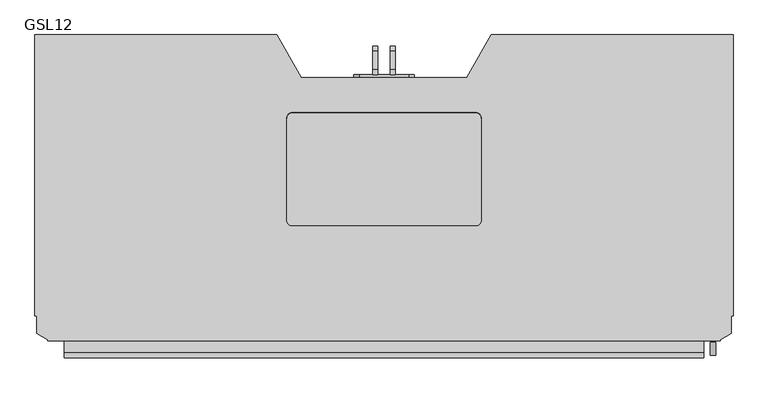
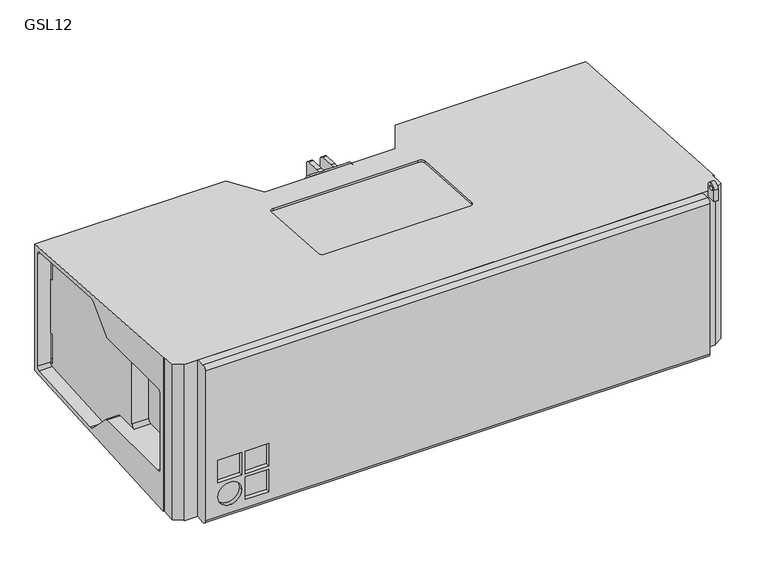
"""IFC4 building model written with IfcOpenShell, lengths in millimetres: proxy geometry, d&b SL-Series GSL : GSL12."""

from ifc_helpers import new_model, si_unit, point, frame, frame_2d, origin, place, context, project, spatial, polyline, circle_curve, trimmed, segment, composite_curve, outline, extrude, source, transform, mapped, element, save
from ifc_brep_helpers import plane_surface, cylinder_surface, revolved_surface, advanced_brep


def gsl12_814769ea(model_context):
    return source(origin(), model_context, "Body", "SolidModel", [
        advanced_brep(
        [(-119.3, -112.3744027, -102.0), (-119.3, -103.3744027, -93.0), (-119.3, -103.3744027, 93.0), (-119.3, -112.3744027, 102.0), (-119.3, -56.0459756, 102.0), (-119.3, -48.9749078, 104.9289322), (-119.3, 4.726121, 158.6299609), (-119.3, 12.4512201, 161.5374823), (-119.3, 221.9292014, 147.80757), (-119.3, 229.0016635, 141.5), (-119.3, 220.1255973, 141.5), (-119.3, 220.1255973, 67.0067283), (-119.3, 229.1255973, 67.0067283), (-119.3, 229.1255973, -67.0067283), (-119.3, 220.1255973, -67.0067283), (-119.3, 220.1255973, -141.5), (-119.3, 229.0016635, -141.5), (-119.3, 221.9292014, -147.80757), (-119.3, 13.3554681, -161.4782148), (-119.3, 4.0853491, -157.9891891), (-119.3, -48.9749078, -104.9289322), (-119.3, -56.0459756, -102.0), (300.0, 240.1255973, 157.6402262), (-150.0, 240.1255973, 157.6402262), (-150.0, -283.8744027, 191.9850007), (-147.0, -283.8744027, 191.9850007), (-147.0, -316.5566714, 194.1271098), (-126.5, -328.3923519, 194.9028613), (-126.5, -330.1244027, 195.0163859), (1126.5, -330.1244027, 195.0163859), (1126.5, -328.3923519, 194.9028613), (1147.0, -316.5566714, 194.1271098), (1147.0, -283.8744027, 191.9850007), (1150.0, -283.8744027, 191.9850007), (1150.0, 240.1255973, 157.6402262), (700.0, 240.1255973, 157.6402262), (653.8119785, 160.1255973, 162.8837032), (346.1880215, 160.1255973, 162.8837032), (681.0, -105.6020072, 180.3004106), (671.0, -115.5805965, 180.9544419), (329.0, -115.5805965, 180.9544419), (319.0, -105.6020072, 180.3004106), (319.0, 84.9890471, 167.8084129), (329.0, 94.9676363, 167.1543816), (671.0, 94.9676363, 167.1543816), (681.0, 84.9890471, 167.8084129), (-150.0, -283.8744027, -191.9850007), (-147.0, -283.8744027, -191.9850007), (1150.0, -283.8744027, -191.9850007), (1147.0, -283.8744027, -191.9850007), (-150.0, 240.1255973, -157.6402262), (300.0, 240.1255973, -157.6402262), (346.1880215, 160.1255973, -162.8837032), (653.8119785, 160.1255973, -162.8837032), (700.0, 240.1255973, -157.6402262), (1150.0, 240.1255973, -157.6402262), (1147.0, -316.5566714, -194.1271098), (1126.5, -328.3923519, -194.9028613), (1126.5, -330.1244027, -195.0163859), (-126.5, -330.1244027, -195.0163859), (-126.5, -328.3923519, -194.9028613), (-147.0, -316.5566714, -194.1271098), (-119.3, 240.1255973, 67.0067283), (-87.3927036, 240.1255973, 11.7416698), (-87.3927036, 240.1255973, -11.7416698), (-119.3, 240.1255973, -67.0067283), (-119.3, 240.1255973, -141.5), (23.5980762, 240.1255973, -141.5), (53.9089653, 240.1255973, -89.0), (206.9859169, 240.1255973, -89.0), (243.6539728, 240.1255973, -25.4890642), (243.6539728, 240.1255973, 25.4890642), (206.9859169, 240.1255973, 89.0), (53.9089653, 240.1255973, 89.0), (23.5980762, 240.1255973, 141.5), (-119.3, 240.1255973, 141.5), (1119.3, 240.1255973, -67.0067283), (1087.3927036, 240.1255973, -11.7416698), (1087.3927036, 240.1255973, 11.7416698), (1119.3, 240.1255973, 67.0067283), (1119.3, 240.1255973, 141.5), (976.4019238, 240.1255973, 141.5), (946.0910347, 240.1255973, 89.0), (793.0140831, 240.1255973, 89.0), (756.3460272, 240.1255973, 25.4890642), (756.3460272, 240.1255973, -25.4890642), (793.0140831, 240.1255973, -89.0), (946.0910347, 240.1255973, -89.0), (976.4019238, 240.1255973, -141.5), (1119.3, 240.1255973, -141.5), (-80.0, -112.3744027, -102.0), (-150.0, -56.0459756, -102.0), (-150.0, -261.8744027, -102.0), (-119.3, -261.8744027, -102.0), (-80.0, -261.8744027, -102.0), (-119.3, -270.8744027, -93.0), (-80.0, -270.8744027, -93.0), (-150.0, -270.8744027, -93.0), (-150.0, -270.8744027, 93.0), (-119.3, -270.8744027, 93.0), (-80.0, -270.8744027, 93.0), (-119.3, -261.8744027, 102.0), (-80.0, -261.8744027, 102.0), (-150.0, -261.8744027, 102.0), (-150.0, -56.0459756, 102.0), (-80.0, -112.3744027, 102.0), (-80.0, -103.3744027, 93.0), (-80.0, -103.3744027, -93.0), (23.5980762, 220.1255973, -141.5), (976.4019238, 220.1255973, -141.5), (1119.3, 220.1255973, -141.5), (1119.3, 229.0016635, -141.5), (-87.3927036, 220.1255973, -11.7416698), (-87.3927036, 220.1255973, 11.7416698), (23.5980762, 220.1255973, 141.5), (53.9089653, 220.1255973, 89.0), (206.9859169, 220.1255973, 89.0), (243.6539728, 220.1255973, 25.4890642), (243.6539728, 220.1255973, -25.4890642), (206.9859169, 220.1255973, -89.0), (53.9089653, 220.1255973, -89.0), (1119.3, 220.1255973, 141.5), (1119.3, 220.1255973, 67.0067283), (1087.3927036, 220.1255973, 11.7416698), (1087.3927036, 220.1255973, -11.7416698), (1119.3, 220.1255973, -67.0067283), (946.0910347, 220.1255973, -89.0), (793.0140831, 220.1255973, -89.0), (756.3460272, 220.1255973, -25.4890642), (756.3460272, 220.1255973, 25.4890642), (793.0140831, 220.1255973, 89.0), (946.0910347, 220.1255973, 89.0), (976.4019238, 220.1255973, 141.5), (1119.3, 229.0016635, 141.5), (-119.3, 229.1255973, 140.1240563), (-119.3, 229.1255973, -140.1240563), (-150.0, 221.9292014, 147.80757), (-150.0, 12.4512201, 161.5374823), (-150.0, 4.726121, 158.6299609), (-150.0, -48.9749078, 104.9289322), (-150.0, -48.9749078, -104.9289322), (-150.0, 4.0853491, -157.9891891), (-150.0, 13.3554681, -161.4782148), (-150.0, 221.9292014, -147.80757), (-150.0, 229.1255973, -140.1240563), (-150.0, 229.1255973, 140.1240563), (1080.0, -261.8744027, -102.0), (1080.0, -112.3744027, -102.0), (1080.0, -103.3744027, -93.0), (1080.0, -103.3744027, 93.0), (1080.0, -112.3744027, 102.0), (1080.0, -261.8744027, 102.0), (1080.0, -270.8744027, 93.0), (1080.0, -270.8744027, -93.0), (1119.3, -261.8744027, -102.0), (1150.0, -261.8744027, -102.0), (1150.0, -56.0459756, -102.0), (1119.3, -56.0459756, -102.0), (1119.3, -112.3744027, -102.0), (1119.3, -270.8744027, -93.0), (1119.3, -270.8744027, 93.0), (1150.0, -270.8744027, 93.0), (1150.0, -270.8744027, -93.0), (1119.3, -261.8744027, 102.0), (1119.3, -112.3744027, 102.0), (1119.3, -56.0459756, 102.0), (1150.0, -56.0459756, 102.0), (1150.0, -261.8744027, 102.0), (1119.3, -103.3744027, 93.0), (1119.3, -103.3744027, -93.0), (626.0, 160.1255973, -96.0), (636.0, 160.1255973, -86.0), (636.0, 160.1255973, 86.0), (626.0, 160.1255973, 96.0), (574.0, 160.1255973, 96.0), (564.0, 160.1255973, 86.0), (564.0, 160.1255973, -86.0), (574.0, 160.1255973, -96.0), (1119.3, 229.1255973, 67.0067283), (1119.3, 229.1255973, 140.1240563), (1119.3, 229.1255973, -140.1240563), (1119.3, 229.1255973, -67.0067283), (1150.0, 221.9292014, 147.80757), (1150.0, 229.1255973, 140.1240563), (1150.0, 229.1255973, -140.1240563), (1150.0, 221.9292014, -147.80757), (1150.0, 13.3554681, -161.4782148), (1150.0, 4.0853491, -157.9891891), (1150.0, -48.9749078, -104.9289322), (1150.0, -48.9749078, 104.9289322), (1150.0, 4.726121, 158.6299609), (1150.0, 12.4512201, 161.5374823), (1119.3, 221.9292014, 147.80757), (1119.3, 221.9292014, -147.80757), (1119.3, 13.3554681, -161.4782148), (1119.3, 4.0853491, -157.9891891), (1119.3, -48.9749078, -104.9289322), (1119.3, -48.9749078, 104.9289322), (1119.3, 4.726121, 158.6299609), (1119.3, 12.4512201, 161.5374823), (671.0, -115.9076121, 175.9651473), (681.0, -105.9290229, 175.311116), (681.0, 84.6620315, 162.8191183), (671.0, 94.6406207, 162.165087), (329.0, 94.6406207, 162.165087), (319.0, 84.6620315, 162.8191183), (319.0, -105.9290229, 175.311116), (329.0, -115.9076121, 175.9651473), (636.0, 155.1255973, -86.0), (626.0, 155.1255973, -96.0), (574.0, 155.1255973, -96.0), (564.0, 155.1255973, -86.0), (564.0, 155.1255973, 86.0), (574.0, 155.1255973, 96.0), (626.0, 155.1255973, 96.0), (636.0, 155.1255973, 86.0)],
        [
            (0, 1, circle_curve(frame((-119.3, -112.3744027, -93.0), z_axis=(1.0, 0.0, 0.0), x_axis=(0.0, 1.0, 0.0)), 9.0)),
            (1, 2),
            (2, 3, circle_curve(frame((-119.3, -112.3744027, 93.0), z_axis=(1.0, 0.0, 0.0), x_axis=(0.0, 1.0, 0.0)), 9.0)),
            (3, 4),
            (4, 5, circle_curve(frame((-119.3, -56.0459756, 112.0), z_axis=(1.0, 0.0, 0.0), x_axis=(0.0, -1.0, 0.0)), 10.0)),
            (5, 6),
            (6, 7, circle_curve(frame((-119.3, 11.7971888, 151.5588931), z_axis=(-1.0, 0.0, 0.0), x_axis=(0.0, -1.0, 0.0)), 10.0)),
            (7, 8),
            (8, 9, circle_curve(frame((-119.3, 221.4255973, 140.1240563), z_axis=(-1.0, 0.0, 0.0), x_axis=(0.0, 1.0, 0.0)), 7.7)),
            (9, 10),
            (10, 11),
            (11, 12),
            (12, 13),
            (13, 14),
            (14, 15),
            (15, 16),
            (16, 17, circle_curve(frame((-119.3, 221.4255973, -140.1240563), z_axis=(-1.0, 0.0, 0.0), x_axis=(0.0, 1.0, 0.0)), 7.7)),
            (17, 18),
            (18, 19, circle_curve(frame((-119.3, 12.5706305, -149.5039077), z_axis=(-1.0, 0.0, 0.0), x_axis=(0.0, -1.0, 0.0)), 12.0)),
            (19, 20),
            (20, 21, circle_curve(frame((-119.3, -56.0459756, -112.0), z_axis=(1.0, 0.0, 0.0), x_axis=(0.0, -1.0, 0.0)), 10.0)),
            (21, 0),
            (22, 23),
            (23, 24),
            (24, 25),
            (25, 26),
            (26, 27),
            (27, 28),
            (28, 29),
            (29, 30),
            (30, 31),
            (31, 32),
            (32, 33),
            (33, 34),
            (34, 35),
            (35, 36),
            (36, 37),
            (37, 22),
            (38, 39, circle_curve(frame((671.0, -105.6020072, 180.3004106), z_axis=(0.0, -0.06540312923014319, -0.9978589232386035), x_axis=(0.0, 0.9978589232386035, -0.06540312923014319)), 10.0)),
            (39, 40),
            (40, 41, circle_curve(frame((329.0, -105.6020072, 180.3004106), z_axis=(0.0, -0.06540312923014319, -0.9978589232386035), x_axis=(0.0, 0.9978589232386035, -0.06540312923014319)), 10.0)),
            (41, 42),
            (42, 43, circle_curve(frame((329.0, 84.9890471, 167.8084129), z_axis=(0.0, -0.06540312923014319, -0.9978589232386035), x_axis=(0.0, 0.9978589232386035, -0.06540312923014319)), 10.0)),
            (43, 44),
            (44, 45, circle_curve(frame((671.0, 84.9890471, 167.8084129), z_axis=(0.0, -0.06540312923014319, -0.9978589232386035), x_axis=(0.0, 0.9978589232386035, -0.06540312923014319)), 10.0)),
            (45, 38),
            (24, 46),
            (46, 47),
            (47, 25),
            (48, 33),
            (32, 49),
            (49, 48),
            (50, 51),
            (51, 52),
            (52, 53),
            (53, 54),
            (54, 55),
            (55, 48),
            (49, 56),
            (56, 57),
            (57, 58),
            (58, 59),
            (59, 60),
            (60, 61),
            (61, 47),
            (46, 50),
            (50, 23),
            (22, 51),
            (62, 63),
            (63, 64),
            (64, 65),
            (65, 66),
            (66, 67),
            (67, 68),
            (68, 69),
            (69, 70),
            (70, 71),
            (71, 72),
            (72, 73),
            (73, 74),
            (74, 75),
            (75, 62),
            (54, 35),
            (34, 55),
            (76, 77),
            (77, 78),
            (78, 79),
            (79, 80),
            (80, 81),
            (81, 82),
            (82, 83),
            (83, 84),
            (84, 85),
            (85, 86),
            (86, 87),
            (87, 88),
            (88, 89),
            (89, 76),
            (90, 0),
            (21, 91),
            (91, 92),
            (92, 93),
            (93, 94),
            (94, 90),
            (93, 95, circle_curve(frame((-119.3, -261.8744027, -93.0), z_axis=(-1.0, 0.0, 0.0), x_axis=(0.0, -1.0, 0.0)), 9.0)),
            (95, 96),
            (96, 94, circle_curve(frame((-80.0, -261.8744027, -93.0), z_axis=(1.0, 0.0, 0.0), x_axis=(0.0, -1.0, 0.0)), 9.0)),
            (95, 97),
            (97, 98),
            (98, 99),
            (99, 100),
            (100, 96),
            (99, 101, circle_curve(frame((-119.3, -261.8744027, 93.0), z_axis=(-1.0, 0.0, 0.0), x_axis=(0.0, -1.0, 0.0)), 9.0)),
            (101, 102),
            (102, 100, circle_curve(frame((-80.0, -261.8744027, 93.0), z_axis=(1.0, 0.0, 0.0), x_axis=(0.0, -1.0, 0.0)), 9.0)),
            (101, 103),
            (103, 104),
            (104, 4),
            (3, 105),
            (105, 102),
            (2, 106),
            (106, 105, circle_curve(frame((-80.0, -112.3744027, 93.0), z_axis=(1.0, 0.0, 0.0), x_axis=(0.0, 1.0, 0.0)), 9.0)),
            (1, 107),
            (107, 106),
            (90, 107, circle_curve(frame((-80.0, -112.3744027, -93.0), z_axis=(1.0, 0.0, 0.0), x_axis=(0.0, 1.0, 0.0)), 9.0)),
            (15, 108),
            (108, 67),
            (66, 16),
            (88, 109),
            (109, 110),
            (110, 111),
            (111, 89),
            (14, 112),
            (112, 113),
            (113, 11),
            (10, 114),
            (114, 115),
            (115, 116),
            (116, 117),
            (117, 118),
            (118, 119),
            (119, 120),
            (120, 108),
            (121, 122),
            (122, 123),
            (123, 124),
            (124, 125),
            (125, 110),
            (109, 126),
            (126, 127),
            (127, 128),
            (128, 129),
            (129, 130),
            (130, 131),
            (131, 132),
            (132, 121),
            (9, 75),
            (74, 114),
            (132, 81),
            (80, 133),
            (133, 121),
            (9, 134, circle_curve(frame((-119.3, 221.4255973, 140.1240563), z_axis=(-1.0, 0.0, 0.0), x_axis=(0.0, 1.0, 0.0)), 7.7)),
            (134, 12),
            (12, 62),
            (135, 16, circle_curve(frame((-119.3, 221.4255973, -140.1240563), z_axis=(-1.0, 0.0, 0.0), x_axis=(0.0, 1.0, 0.0)), 7.7)),
            (65, 13),
            (13, 135),
            (136, 137),
            (137, 138, circle_curve(frame((-150.0, 11.7971888, 151.5588931), z_axis=(1.0, 0.0, 0.0), x_axis=(0.0, -1.0, 0.0)), 10.0)),
            (138, 139),
            (139, 104, circle_curve(frame((-150.0, -56.0459756, 112.0), z_axis=(-1.0, 0.0, 0.0), x_axis=(0.0, -1.0, 0.0)), 10.0)),
            (103, 98, circle_curve(frame((-150.0, -261.8744027, 93.0), z_axis=(1.0, 0.0, 0.0), x_axis=(0.0, -1.0, 0.0)), 9.0)),
            (97, 92, circle_curve(frame((-150.0, -261.8744027, -93.0), z_axis=(1.0, 0.0, 0.0), x_axis=(0.0, -1.0, 0.0)), 9.0)),
            (91, 140, circle_curve(frame((-150.0, -56.0459756, -112.0), z_axis=(-1.0, 0.0, 0.0), x_axis=(0.0, -1.0, 0.0)), 10.0)),
            (140, 141),
            (141, 142, circle_curve(frame((-150.0, 12.5706305, -149.5039077), z_axis=(1.0, 0.0, 0.0), x_axis=(0.0, -1.0, 0.0)), 12.0)),
            (142, 143),
            (143, 144, circle_curve(frame((-150.0, 221.4255973, -140.1240563), z_axis=(1.0, 0.0, 0.0), x_axis=(0.0, 1.0, 0.0)), 7.7)),
            (144, 145),
            (145, 136, circle_curve(frame((-150.0, 221.4255973, 140.1240563), z_axis=(1.0, 0.0, 0.0), x_axis=(0.0, 1.0, 0.0)), 7.7)),
            (145, 134),
            (8, 136),
            (144, 135),
            (143, 17),
            (142, 18),
            (141, 19),
            (140, 20),
            (139, 5),
            (138, 6),
            (137, 7),
            (64, 112),
            (63, 113),
            (146, 147),
            (147, 148, circle_curve(frame((1080.0, -112.3744027, -93.0), z_axis=(1.0, 0.0, 0.0), x_axis=(0.0, 1.0, 0.0)), 9.0)),
            (148, 149),
            (149, 150, circle_curve(frame((1080.0, -112.3744027, 93.0), z_axis=(1.0, 0.0, 0.0), x_axis=(0.0, 1.0, 0.0)), 9.0)),
            (150, 151),
            (151, 152, circle_curve(frame((1080.0, -261.8744027, 93.0), z_axis=(1.0, 0.0, 0.0), x_axis=(0.0, -1.0, 0.0)), 9.0)),
            (152, 153),
            (153, 146, circle_curve(frame((1080.0, -261.8744027, -93.0), z_axis=(1.0, 0.0, 0.0), x_axis=(0.0, -1.0, 0.0)), 9.0)),
            (146, 154),
            (154, 155),
            (155, 156),
            (156, 157),
            (157, 158),
            (158, 147),
            (153, 159),
            (159, 154, circle_curve(frame((1119.3, -261.8744027, -93.0), z_axis=(1.0, 0.0, 0.0), x_axis=(0.0, -1.0, 0.0)), 9.0)),
            (152, 160),
            (160, 161),
            (161, 162),
            (162, 159),
            (151, 163),
            (163, 160, circle_curve(frame((1119.3, -261.8744027, 93.0), z_axis=(1.0, 0.0, 0.0), x_axis=(0.0, -1.0, 0.0)), 9.0)),
            (150, 164),
            (164, 165),
            (165, 166),
            (166, 167),
            (167, 163),
            (168, 164, circle_curve(frame((1119.3, -112.3744027, 93.0), z_axis=(1.0, 0.0, 0.0), x_axis=(0.0, 1.0, 0.0)), 9.0)),
            (149, 168),
            (169, 168),
            (148, 169),
            (158, 169, circle_curve(frame((1119.3, -112.3744027, -93.0), z_axis=(1.0, 0.0, 0.0), x_axis=(0.0, 1.0, 0.0)), 9.0)),
            (37, 52),
            (36, 53),
            (170, 171, circle_curve(frame((626.0, 160.1255973, -86.0), z_axis=(0.0, -1.0, 0.0), x_axis=(-1.0, 0.0, 0.0)), 10.0)),
            (171, 172),
            (172, 173, circle_curve(frame((626.0, 160.1255973, 86.0), z_axis=(0.0, -1.0, 0.0), x_axis=(-1.0, 0.0, 0.0)), 10.0)),
            (173, 174),
            (174, 175, circle_curve(frame((574.0, 160.1255973, 86.0), z_axis=(0.0, -1.0, 0.0), x_axis=(-1.0, 0.0, 0.0)), 10.0)),
            (175, 176),
            (176, 177, circle_curve(frame((574.0, 160.1255973, -86.0), z_axis=(0.0, -1.0, 0.0), x_axis=(-1.0, 0.0, 0.0)), 10.0)),
            (177, 170),
            (71, 117),
            (116, 72),
            (70, 118),
            (69, 119),
            (68, 120),
            (73, 115),
            (82, 131),
            (130, 83),
            (87, 126),
            (86, 127),
            (85, 128),
            (84, 129),
            (79, 178),
            (178, 179),
            (179, 133, circle_curve(frame((1119.3, 221.4255973, 140.1240563), z_axis=(1.0, 0.0, 0.0), x_axis=(0.0, 1.0, 0.0)), 7.7)),
            (111, 180, circle_curve(frame((1119.3, 221.4255973, -140.1240563), z_axis=(1.0, 0.0, 0.0), x_axis=(0.0, 1.0, 0.0)), 7.7)),
            (180, 181),
            (181, 76),
            (182, 183, circle_curve(frame((1150.0, 221.4255973, 140.1240563), z_axis=(-1.0, 0.0, 0.0), x_axis=(0.0, 1.0, 0.0)), 7.7)),
            (183, 184),
            (184, 185, circle_curve(frame((1150.0, 221.4255973, -140.1240563), z_axis=(-1.0, 0.0, 0.0), x_axis=(0.0, 1.0, 0.0)), 7.7)),
            (185, 186),
            (186, 187, circle_curve(frame((1150.0, 12.5706305, -149.5039077), z_axis=(-1.0, 0.0, 0.0), x_axis=(0.0, -1.0, 0.0)), 12.0)),
            (187, 188),
            (188, 156, circle_curve(frame((1150.0, -56.0459756, -112.0), z_axis=(1.0, 0.0, 0.0), x_axis=(0.0, -1.0, 0.0)), 10.0)),
            (155, 162, circle_curve(frame((1150.0, -261.8744027, -93.0), z_axis=(-1.0, 0.0, 0.0), x_axis=(0.0, -1.0, 0.0)), 9.0)),
            (161, 167, circle_curve(frame((1150.0, -261.8744027, 93.0), z_axis=(-1.0, 0.0, 0.0), x_axis=(0.0, -1.0, 0.0)), 9.0)),
            (166, 189, circle_curve(frame((1150.0, -56.0459756, 112.0), z_axis=(1.0, 0.0, 0.0), x_axis=(0.0, -1.0, 0.0)), 10.0)),
            (189, 190),
            (190, 191, circle_curve(frame((1150.0, 11.7971888, 151.5588931), z_axis=(-1.0, 0.0, 0.0), x_axis=(0.0, -1.0, 0.0)), 10.0)),
            (191, 182),
            (182, 192),
            (192, 133, circle_curve(frame((1119.3, 221.4255973, 140.1240563), z_axis=(-1.0, 0.0, 0.0), x_axis=(0.0, 1.0, 0.0)), 7.7)),
            (179, 183),
            (178, 181),
            (180, 184),
            (111, 193, circle_curve(frame((1119.3, 221.4255973, -140.1240563), z_axis=(-1.0, 0.0, 0.0), x_axis=(0.0, 1.0, 0.0)), 7.7)),
            (193, 185),
            (193, 194),
            (194, 186),
            (194, 195, circle_curve(frame((1119.3, 12.5706305, -149.5039077), z_axis=(-1.0, 0.0, 0.0), x_axis=(0.0, -1.0, 0.0)), 12.0)),
            (195, 187),
            (195, 196),
            (196, 188),
            (196, 157, circle_curve(frame((1119.3, -56.0459756, -112.0), z_axis=(1.0, 0.0, 0.0), x_axis=(0.0, -1.0, 0.0)), 10.0)),
            (165, 197, circle_curve(frame((1119.3, -56.0459756, 112.0), z_axis=(1.0, 0.0, 0.0), x_axis=(0.0, -1.0, 0.0)), 10.0)),
            (197, 189),
            (197, 198),
            (198, 190),
            (198, 199, circle_curve(frame((1119.3, 11.7971888, 151.5588931), z_axis=(-1.0, 0.0, 0.0), x_axis=(0.0, -1.0, 0.0)), 10.0)),
            (199, 191),
            (199, 192),
            (78, 123),
            (122, 178),
            (77, 124),
            (181, 125),
            (200, 201, circle_curve(frame((671.0, -105.9290229, 175.311116), z_axis=(0.0, 0.06540312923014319, 0.9978589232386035), x_axis=(0.0, 0.9978589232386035, -0.06540312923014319)), 10.0)),
            (201, 202),
            (202, 203, circle_curve(frame((671.0, 84.6620315, 162.8191183), z_axis=(0.0, 0.06540312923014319, 0.9978589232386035), x_axis=(0.0, 0.9978589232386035, -0.06540312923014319)), 10.0)),
            (203, 204),
            (204, 205, circle_curve(frame((329.0, 84.6620315, 162.8191183), z_axis=(0.0, 0.06540312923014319, 0.9978589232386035), x_axis=(0.0, 0.9978589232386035, -0.06540312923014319)), 10.0)),
            (205, 206),
            (206, 207, circle_curve(frame((329.0, -105.9290229, 175.311116), z_axis=(0.0, 0.06540312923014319, 0.9978589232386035), x_axis=(0.0, 0.9978589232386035, -0.06540312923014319)), 10.0)),
            (207, 200),
            (200, 39),
            (38, 201),
            (45, 202),
            (44, 203),
            (43, 204),
            (42, 205),
            (41, 206),
            (40, 207),
            (208, 209, circle_curve(frame((626.0, 155.1255973, -86.0), z_axis=(0.0, 1.0, 0.0), x_axis=(-1.0, 0.0, 0.0)), 10.0)),
            (209, 210),
            (210, 211, circle_curve(frame((574.0, 155.1255973, -86.0), z_axis=(0.0, 1.0, 0.0), x_axis=(-1.0, 0.0, 0.0)), 10.0)),
            (211, 212),
            (212, 213, circle_curve(frame((574.0, 155.1255973, 86.0), z_axis=(0.0, 1.0, 0.0), x_axis=(-1.0, 0.0, 0.0)), 10.0)),
            (213, 214),
            (214, 215, circle_curve(frame((626.0, 155.1255973, 86.0), z_axis=(0.0, 1.0, 0.0), x_axis=(-1.0, 0.0, 0.0)), 10.0)),
            (215, 208),
            (208, 171),
            (170, 209),
            (177, 210),
            (176, 211),
            (175, 212),
            (174, 213),
            (173, 214),
            (172, 215),
            (26, 61),
            (60, 27),
            (59, 28),
            (58, 29),
            (57, 30),
            (56, 31),
        ],
        [
            plane_surface(frame((-119.3, -352.0357745, 196.4525331), z_axis=(-1.0000000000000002, 0.0, 0.0), x_axis=(0.0, 0.9978589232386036, -0.06540312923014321))),
            plane_surface(frame((-80.0, 240.1255973, 157.6402262), z_axis=(0.0, 0.06540312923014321, 0.9978589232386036), x_axis=(-1.0, 0.0, 0.0))),
            plane_surface(frame((-80.0, -283.8744027, 191.9850007), z_axis=(0.0, -1.0, 0.0), x_axis=(-1.0, 0.0, 0.0))),
            plane_surface(frame((-80.0, -283.8744027, -191.9850007), z_axis=(0.0, 0.06540312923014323, -0.9978589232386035), x_axis=(-1.0, 0.0, 0.0))),
            plane_surface(frame((-80.0, 240.1255973, -157.6402262), z_axis=(0.0, 1.0, 0.0), x_axis=(-1.0, 0.0, 0.0))),
            plane_surface(frame((-80.0, -112.3744027, -102.0), z_axis=(0.0, 0.0, 1.0), x_axis=(-1.0, 0.0, 0.0))),
            revolved_surface(polyline([(-119.29999999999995, -270.8744027, -93.0), (-80.0, -270.8744027, -93.0)]), (530.7, -261.8744027, -93.0), (-1.0, 0.0, 0.0)),
            plane_surface(frame((-80.0, -270.8744027, -93.0), z_axis=(0.0, 1.0, 0.0), x_axis=(-1.0, 0.0, 0.0))),
            revolved_surface(polyline([(-119.29999999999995, -270.8744027, 93.0), (-80.0, -270.8744027, 93.0)]), (530.7, -261.8744027, 93.0), (-1.0, 0.0, 0.0)),
            plane_surface(frame((-80.0, -261.8744027, 102.0), z_axis=(0.0, 0.0, -1.0), x_axis=(-1.0, 0.0, 0.0))),
            revolved_surface(polyline([(-119.29999999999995, -103.3744027, 93.0), (-80.0, -103.3744027, 93.0)]), (530.7, -112.3744027, 93.0), (-1.0, 0.0, 0.0)),
            plane_surface(frame((-80.0, -103.3744027, 93.0), z_axis=(0.0, -1.0, 0.0), x_axis=(-1.0, 0.0, 0.0))),
            revolved_surface(polyline([(-119.29999999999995, -103.3744027, -93.0), (-80.0, -103.3744027, -93.0)]), (530.7, -112.3744027, -93.0), (-1.0, 0.0, 0.0)),
            plane_surface(frame((-80.0, 240.1255973, -141.5), z_axis=(0.0, 0.0, 1.0), x_axis=(-1.0, 0.0, 0.0))),
            plane_surface(frame((-80.0, 220.1255973, -141.5), z_axis=(0.0, 1.0, 0.0), x_axis=(-1.0, 0.0, 0.0))),
            plane_surface(frame((-80.0, 220.1255973, 141.5), z_axis=(0.0, 0.0, -1.0), x_axis=(-1.0, 0.0, 0.0))),
            plane_surface(frame((-119.3, -352.0357745, 196.4525331), z_axis=(1.0, 0.0, 0.0), x_axis=(0.0, -0.9978589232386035, 0.0654031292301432))),
            plane_surface(frame((-150.0, -352.0357745, 196.4525331), z_axis=(-1.0, 0.0, 0.0), x_axis=(0.0, 0.9978589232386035, -0.0654031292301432))),
            revolved_surface(polyline([(-150.0, 229.12559729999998, 140.1240563), (-119.29999999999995, 229.12559729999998, 140.1240563)]), (500.0, 221.4255973, 140.1240563), (-1.0, 0.0, 0.0)),
            plane_surface(frame((-119.3, 229.1255973, 140.1240563), z_axis=(0.0, -1.0, 0.0), x_axis=(-1.0, 0.0, 0.0))),
            revolved_surface(polyline([(-150.0, 229.12559729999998, -140.1240563), (-119.29999999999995, 229.12559729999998, -140.1240563)]), (500.0, 221.4255973, -140.1240563), (-1.0, 0.0, 0.0)),
            plane_surface(frame((-119.3, 221.9292014, -147.80757), z_axis=(0.0, -0.06540312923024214, 0.997858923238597), x_axis=(-1.0, 0.0, 0.0))),
            revolved_surface(polyline([(-150.0, 0.5706305, -149.5039077), (-119.29999999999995, 0.5706305, -149.5039077)]), (500.0, 12.5706305, -149.5039077), (-1.0, 0.0, 0.0)),
            plane_surface(frame((-119.3, 4.0853491, -157.9891891), z_axis=(0.0, 0.7071067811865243, 0.7071067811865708), x_axis=(-1.0, 0.0, 0.0))),
            cylinder_surface(frame((500.0, -56.0459756, -112.0), z_axis=(1.0, 0.0, 0.0), x_axis=(0.0, -1.0, 0.0)), 10.0),
            revolved_surface(polyline([(-150.0, -270.8744027, -93.0), (-119.29999999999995, -270.8744027, -93.0)]), (500.0, -261.8744027, -93.0), (-1.0, 0.0, 0.0)),
            revolved_surface(polyline([(-150.0, -270.8744027, 93.0), (-119.29999999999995, -270.8744027, 93.0)]), (500.0, -261.8744027, 93.0), (-1.0, 0.0, 0.0)),
            cylinder_surface(frame((500.0, -56.0459756, 112.0), z_axis=(1.0, 0.0, 0.0), x_axis=(0.0, -1.0, 0.0)), 10.0),
            plane_surface(frame((-119.3, -48.9749078, 104.9289322), z_axis=(0.0, 0.7071067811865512, -0.7071067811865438), x_axis=(-1.0, 0.0, 0.0))),
            revolved_surface(polyline([(-150.0, 1.7971888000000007, 151.5588931), (-119.29999999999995, 1.7971888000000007, 151.5588931)]), (500.0, 11.7971888, 151.5588931), (-1.0, 0.0, 0.0)),
            plane_surface(frame((-119.3, 12.4512201, 161.5374823), z_axis=(0.0, -0.06540312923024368, -0.9978589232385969), x_axis=(-1.0, 0.0, 0.0))),
            plane_surface(frame((-119.3, 219.1255973, -67.0067283), z_axis=(0.8660254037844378, 0.0, -0.5000000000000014), x_axis=(0.0, 1.0, 0.0))),
            plane_surface(frame((-87.3927036, 219.1255973, -11.7416698), z_axis=(1.0, 0.0, 0.0), x_axis=(0.0, 1.0, 0.0))),
            plane_surface(frame((-87.3927036, 219.1255973, 11.7416698), z_axis=(0.8660254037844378, 0.0, 0.5000000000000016), x_axis=(0.0, 1.0, 0.0))),
            plane_surface(frame((1080.0, -283.8744027, 191.9850007), z_axis=(1.0, 0.0, 0.0), x_axis=(0.0, 0.0, -1.0))),
            plane_surface(frame((-80.0, -283.8744027, 191.9850007), z_axis=(-1.0, 0.0, 0.0), x_axis=(0.0, 0.0, 1.0))),
            plane_surface(frame((1080.0, -261.8744027, -102.0), z_axis=(0.0, 0.0, 1.0), x_axis=(1.0, 0.0, 0.0))),
            revolved_surface(polyline([(1119.3, -270.8744027, -93.0), (1080.0, -270.8744027, -93.0)]), (469.3, -261.8744027, -93.0), (1.0, 0.0, 0.0)),
            plane_surface(frame((1080.0, -270.8744027, 93.0), z_axis=(0.0, 1.0, 0.0), x_axis=(1.0, 0.0, 0.0))),
            revolved_surface(polyline([(1119.3, -270.8744027, 93.0), (1080.0, -270.8744027, 93.0)]), (469.3, -261.8744027, 93.0), (1.0, 0.0, 0.0)),
            plane_surface(frame((1080.0, -112.3744027, 102.0), z_axis=(0.0, 0.0, -1.0), x_axis=(1.0, 0.0, 0.0))),
            revolved_surface(polyline([(1119.3, -103.3744027, 93.0), (1080.0, -103.3744027, 93.0)]), (469.3, -112.3744027, 93.0), (1.0, 0.0, 0.0)),
            plane_surface(frame((1080.0, -103.3744027, -93.0), z_axis=(0.0, -1.0, 0.0), x_axis=(1.0, 0.0, 0.0))),
            revolved_surface(polyline([(1119.3, -103.3744027, -93.0), (1080.0, -103.3744027, -93.0)]), (469.3, -112.3744027, -93.0), (1.0, 0.0, 0.0)),
            plane_surface(frame((286.1435935, 264.1255973, 250.0), z_axis=(0.8660254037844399, 0.49999999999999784, 0.0), x_axis=(0.0, 0.0, -1.0))),
            plane_surface(frame((346.1880215, 160.1255973, 250.0), z_axis=(0.0, 1.0, 0.0), x_axis=(0.0, 0.0, -1.0))),
            plane_surface(frame((653.8119785, 160.1255973, 250.0), z_axis=(-0.8660254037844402, 0.4999999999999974, 0.0), x_axis=(0.0, 0.0, -1.0))),
            plane_surface(frame((206.9859169, 220.1255973, 89.0), z_axis=(-0.8660254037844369, 0.0, -0.5000000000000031), x_axis=(0.0, 1.0, 0.0))),
            plane_surface(frame((243.6539728, 220.1255973, 25.4890642), z_axis=(-1.0, 0.0, 0.0), x_axis=(0.0, 1.0, 0.0))),
            plane_surface(frame((243.6539728, 220.1255973, -25.4890642), z_axis=(-0.8660254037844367, 0.0, 0.5000000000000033), x_axis=(0.0, 1.0, 0.0))),
            plane_surface(frame((206.9859169, 220.1255973, -89.0), z_axis=(0.0, 0.0, 1.0), x_axis=(0.0, 1.0, 0.0))),
            plane_surface(frame((53.9089653, 220.1255973, -89.0), z_axis=(-0.8660254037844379, 0.0, 0.5000000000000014), x_axis=(0.0, 1.0, 0.0))),
            plane_surface(frame((23.5980762, 220.1255973, 141.5), z_axis=(-0.8660254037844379, 0.0, -0.5000000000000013), x_axis=(0.0, 1.0, 0.0))),
            plane_surface(frame((53.9089653, 220.1255973, 89.0), z_axis=(0.0, 0.0, -1.0), x_axis=(0.0, 1.0, 0.0))),
            plane_surface(frame((793.0140831, 220.1255973, 89.0), z_axis=(0.0, 0.0, -1.0), x_axis=(0.0, 1.0, 0.0))),
            plane_surface(frame((946.0910347, 220.1255973, 89.0), z_axis=(0.8660254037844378, 0.0, -0.5000000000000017), x_axis=(0.0, 1.0, 0.0))),
            plane_surface(frame((976.4019238, 220.1255973, -141.5), z_axis=(0.8660254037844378, 0.0, 0.5000000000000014), x_axis=(0.0, 1.0, 0.0))),
            plane_surface(frame((946.0910347, 220.1255973, -89.0), z_axis=(0.0, 0.0, 1.0), x_axis=(0.0, 1.0, 0.0))),
            plane_surface(frame((793.0140831, 220.1255973, -89.0), z_axis=(0.8660254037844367, 0.0, 0.5000000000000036), x_axis=(0.0, 1.0, 0.0))),
            plane_surface(frame((756.3460272, 220.1255973, -25.4890642), z_axis=(1.0, 0.0, 0.0), x_axis=(0.0, 1.0, 0.0))),
            plane_surface(frame((756.3460272, 220.1255973, 25.4890642), z_axis=(0.8660254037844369, 0.0, -0.5000000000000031), x_axis=(0.0, 1.0, 0.0))),
            plane_surface(frame((1119.3, 240.1255973, -161.4782148), z_axis=(-1.0, 0.0, 0.0), x_axis=(0.0, 0.0, -1.0))),
            plane_surface(frame((1150.0, 240.1255973, -161.4782148), z_axis=(1.0, 0.0, 0.0), x_axis=(0.0, 0.0, 1.0))),
            revolved_surface(polyline([(1150.0, 229.12559729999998, 140.1240563), (1119.3, 229.12559729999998, 140.1240563)]), (500.0, 221.4255973, 140.1240563), (1.0, 0.0, 0.0)),
            plane_surface(frame((1119.3, 229.1255973, -140.1240563), z_axis=(0.0, -1.0, 0.0), x_axis=(1.0, 0.0, 0.0))),
            revolved_surface(polyline([(1150.0, 229.12559729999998, -140.1240563), (1119.3, 229.12559729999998, -140.1240563)]), (500.0, 221.4255973, -140.1240563), (1.0, 0.0, 0.0)),
            plane_surface(frame((1119.3, 13.3554681, -161.4782148), z_axis=(0.0, -0.06540312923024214, 0.997858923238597), x_axis=(1.0, 0.0, 0.0))),
            revolved_surface(polyline([(1150.0, 0.5706305, -149.5039077), (1119.3, 0.5706305, -149.5039077)]), (500.0, 12.5706305, -149.5039077), (1.0, 0.0, 0.0)),
            plane_surface(frame((1119.3, -48.9749078, -104.9289322), z_axis=(0.0, 0.7071067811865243, 0.7071067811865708), x_axis=(1.0, 0.0, 0.0))),
            cylinder_surface(frame((500.0, -56.0459756, -112.0), z_axis=(-1.0, 0.0, 0.0), x_axis=(0.0, -1.0, 0.0)), 10.0),
            revolved_surface(polyline([(1150.0, -270.8744027, -93.0), (1119.3, -270.8744027, -93.0)]), (500.0, -261.8744027, -93.0), (1.0, 0.0, 0.0)),
            revolved_surface(polyline([(1150.0, -270.8744027, 93.0), (1119.3, -270.8744027, 93.0)]), (500.0, -261.8744027, 93.0), (1.0, 0.0, 0.0)),
            cylinder_surface(frame((500.0, -56.0459756, 112.0), z_axis=(-1.0, 0.0, 0.0), x_axis=(0.0, -1.0, 0.0)), 10.0),
            plane_surface(frame((1119.3, 4.726121, 158.6299609), z_axis=(0.0, 0.7071067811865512, -0.7071067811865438), x_axis=(1.0, 0.0, 0.0))),
            revolved_surface(polyline([(1150.0, 1.7971888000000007, 151.5588931), (1119.3, 1.7971888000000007, 151.5588931)]), (500.0, 11.7971888, 151.5588931), (1.0, 0.0, 0.0)),
            plane_surface(frame((1119.3, 221.9292014, 147.80757), z_axis=(0.0, -0.06540312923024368, -0.9978589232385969), x_axis=(1.0, 0.0, 0.0))),
            plane_surface(frame((1119.3, 219.1255973, 67.0067283), z_axis=(-0.8660254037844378, 0.0, 0.5000000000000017), x_axis=(0.0, 1.0, 0.0))),
            plane_surface(frame((1087.3927036, 219.1255973, 11.7416698), z_axis=(-1.0, 0.0, 0.0), x_axis=(0.0, 1.0, 0.0))),
            plane_surface(frame((1087.3927036, 219.1255973, -11.7416698), z_axis=(-0.8660254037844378, 0.0, -0.5000000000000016), x_axis=(0.0, 1.0, 0.0))),
            plane_surface(frame((1119.3, 219.1255973, -67.0067283), z_axis=(1.0, 0.0, 0.0), x_axis=(0.0, 1.0, 0.0))),
            plane_surface(frame((671.0, -95.9504336, 174.6570847), z_axis=(0.0, 0.06540312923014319, 0.9978589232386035), x_axis=(1.0, 0.0, 0.0))),
            revolved_surface(polyline([(671.0, -95.6234180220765, 179.64637931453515), (671.0, -95.95043366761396, 174.65708470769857)]), (671.0, -105.9290229, 175.311116), (0.0, 0.06540312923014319, 0.9978589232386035)),
            plane_surface(frame((681.0, -105.6020072, 180.3004106), z_axis=(-1.0, 0.0, 0.0), x_axis=(0.0, -0.06540312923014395, -0.9978589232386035))),
            revolved_surface(polyline([(671.0, 94.96763637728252, 167.1543816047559), (671.0, 94.64062073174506, 162.16508699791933)]), (671.0, 84.6620315, 162.8191183), (0.0, 0.06540312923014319, 0.9978589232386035)),
            plane_surface(frame((671.0, 94.9676363, 167.1543816), z_axis=(0.0, -0.9978589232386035, 0.06540312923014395), x_axis=(0.0, -0.06540312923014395, -0.9978589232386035))),
            revolved_surface(polyline([(329.0, 94.96763637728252, 167.1543816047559), (329.0, 94.64062073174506, 162.16508699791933)]), (329.0, 84.6620315, 162.8191183), (0.0, 0.06540312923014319, 0.9978589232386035)),
            plane_surface(frame((319.0, 84.9890471, 167.8084129), z_axis=(1.0, 0.0, 0.0), x_axis=(0.0, -0.06540312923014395, -0.9978589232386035))),
            revolved_surface(polyline([(329.0, -95.6234180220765, 179.64637931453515), (329.0, -95.95043366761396, 174.65708470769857)]), (329.0, -105.9290229, 175.311116), (0.0, 0.06540312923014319, 0.9978589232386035)),
            plane_surface(frame((329.0, -115.5805965, 180.9544419), z_axis=(0.0, 0.9978589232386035, -0.06540312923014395), x_axis=(0.0, -0.06540312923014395, -0.9978589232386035))),
            plane_surface(frame((616.0, 155.1255973, -86.0), z_axis=(0.0, 1.0, 0.0), x_axis=(0.0, 0.0, -1.0))),
            revolved_surface(polyline([(616.0, 160.1255973, -86.0), (616.0, 155.1255973, -86.0)]), (626.0, 155.1255973, -86.0), (0.0, 1.0, 0.0)),
            plane_surface(frame((626.0, 160.1255973, -96.0), z_axis=(0.0, 0.0, 1.0), x_axis=(0.0, -1.0, 0.0))),
            revolved_surface(polyline([(564.0, 160.1255973, -86.0), (564.0, 155.1255973, -86.0)]), (574.0, 155.1255973, -86.0), (0.0, 1.0, 0.0)),
            plane_surface(frame((564.0, 160.1255973, -86.0), z_axis=(1.0, 0.0, 0.0), x_axis=(0.0, -1.0, 0.0))),
            revolved_surface(polyline([(564.0, 160.1255973, 86.0), (564.0, 155.1255973, 86.0)]), (574.0, 155.1255973, 86.0), (0.0, 1.0, 0.0)),
            plane_surface(frame((574.0, 160.1255973, 96.0), z_axis=(0.0, 0.0, -1.0), x_axis=(0.0, -1.0, 0.0))),
            revolved_surface(polyline([(616.0, 160.1255973, 86.0), (616.0, 155.1255973, 86.0)]), (626.0, 155.1255973, 86.0), (0.0, 1.0, 0.0)),
            plane_surface(frame((636.0, 160.1255973, 86.0), z_axis=(-1.0, 0.0, 0.0), x_axis=(0.0, -1.0, 0.0))),
            plane_surface(frame((-147.0, -316.5566714, 200.0), z_axis=(-0.499999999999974, -0.8660254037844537, 0.0), x_axis=(0.0, 0.0, -1.0))),
            plane_surface(frame((-126.5, -328.3923519, 200.0), z_axis=(-1.0, 0.0, 0.0), x_axis=(0.0, 0.0, -1.0))),
            plane_surface(frame((-126.5, -330.1244027, 200.0), z_axis=(0.0, -1.0, 0.0), x_axis=(0.0, 0.0, -1.0))),
            plane_surface(frame((1126.5, -330.1244027, 200.0), z_axis=(1.0, 0.0, 0.0), x_axis=(0.0, 0.0, -1.0))),
            plane_surface(frame((1126.5, -328.3923519, 200.0), z_axis=(0.49999999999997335, -0.866025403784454, 0.0), x_axis=(0.0, 0.0, -1.0))),
            plane_surface(frame((1147.0, -316.5566714, 200.0), z_axis=(1.0, 0.0, 0.0), x_axis=(0.0, 0.0, -1.0))),
            plane_surface(frame((-147.0, -283.8744027, 200.0), z_axis=(-1.0, 0.0, 0.0), x_axis=(0.0, 0.0, -1.0))),
        ],
        [
            (0, [[1, 2, 3, 4, 5, 6, 7, 8, 9, 10, 11, 12, 13, 14, 15, 16, 17, 18, 19, 20, 21, 22]]),
            (1, [[23, 24, 25, 26, 27, 28, 29, 30, 31, 32, 33, 34, 35, 36, 37, 38], [39, 40, 41, 42, 43, 44, 45, 46]]),
            (2, [[47, 48, 49, -25]]),
            (2, [[50, -33, 51, 52]]),
            (3, [[53, 54, 55, 56, 57, 58, -52, 59, 60, 61, 62, 63, 64, 65, -48, 66]]),
            (4, [[67, -23, 68, -53], [69, 70, 71, 72, 73, 74, 75, 76, 77, 78, 79, 80, 81, 82]]),
            (4, [[83, -35, 84, -57], [85, 86, 87, 88, 89, 90, 91, 92, 93, 94, 95, 96, 97, 98]]),
            (5, [[99, -22, 100, 101, 102, 103, 104]]),
            (6, [[-103, 105, 106, 107]]),
            (7, [[-106, 108, 109, 110, 111, 112]]),
            (8, [[-111, 113, 114, 115]]),
            (9, [[-114, 116, 117, 118, -4, 119, 120]]),
            (10, [[-3, 121, 122, -119]]),
            (11, [[-2, 123, 124, -121]]),
            (12, [[-1, -99, 125, -123]]),
            (13, [[-16, 126, 127, -73, 128]]),
            (13, [[-97, 129, 130, 131, 132]]),
            (14, [[-15, 133, 134, 135, -11, 136, 137, 138, 139, 140, 141, 142, 143, -126]]),
            (14, [[144, 145, 146, 147, 148, -130, 149, 150, 151, 152, 153, 154, 155, 156]]),
            (15, [[-10, 157, -81, 158, -136]]),
            (15, [[-156, 159, -89, 160, 161]]),
            (16, [[162, 163, 164, -82, -157]]),
            (16, [[165, -128, -72, 166, 167]]),
            (17, [[-24, -67, -66, -47], [168, 169, 170, 171, -117, 172, -109, 173, -101, 174, 175, 176, 177, 178, 179, 180]]),
            (18, [[-180, 181, -162, -9, 182]]),
            (19, [[-179, 183, -167, -13, -163, -181]]),
            (20, [[-178, 184, -17, -165, -183]]),
            (21, [[-177, 185, -18, -184]]),
            (22, [[-176, 186, -19, -185]]),
            (23, [[-175, 187, -20, -186]]),
            (24, [[-174, -100, -21, -187]]),
            (25, [[-173, -108, -105, -102]]),
            (26, [[-172, -116, -113, -110]]),
            (27, [[-171, 188, -5, -118]]),
            (28, [[-170, 189, -6, -188]]),
            (29, [[-169, 190, -7, -189]]),
            (30, [[-168, -182, -8, -190]]),
            (31, [[-71, 191, -133, -14, -166]]),
            (32, [[-70, 192, -134, -191]]),
            (33, [[-69, -164, -12, -135, -192]]),
            (34, [[193, 194, 195, 196, 197, 198, 199, 200]]),
            (35, [[-104, -107, -112, -115, -120, -122, -124, -125]]),
            (36, [[201, 202, 203, 204, 205, 206, -193]]),
            (37, [[-201, -200, 207, 208]]),
            (38, [[-207, -199, 209, 210, 211, 212]]),
            (39, [[-209, -198, 213, 214]]),
            (40, [[-213, -197, 215, 216, 217, 218, 219]]),
            (41, [[220, -215, -196, 221]]),
            (42, [[222, -221, -195, 223]]),
            (43, [[224, -223, -194, -206]]),
            (44, [[225, -54, -68, -38]]),
            (45, [[-225, -37, 226, -55], [227, 228, 229, 230, 231, 232, 233, 234]]),
            (46, [[-226, -36, -83, -56]]),
            (47, [[-78, 235, -139, 236]]),
            (48, [[-77, 237, -140, -235]]),
            (49, [[-76, 238, -141, -237]]),
            (50, [[-75, 239, -142, -238]]),
            (51, [[-74, -127, -143, -239]]),
            (52, [[-80, 240, -137, -158]]),
            (53, [[-79, -236, -138, -240]]),
            (54, [[-91, 241, -154, 242]]),
            (55, [[-90, -159, -155, -241]]),
            (56, [[-96, 243, -149, -129]]),
            (57, [[-95, 244, -150, -243]]),
            (58, [[-94, 245, -151, -244]]),
            (59, [[-93, 246, -152, -245]]),
            (60, [[-92, -242, -153, -246]]),
            (61, [[-88, 247, 248, 249, -160]]),
            (61, [[-98, -132, 250, 251, 252]]),
            (62, [[-34, -50, -58, -84], [253, 254, 255, 256, 257, 258, 259, -203, 260, -211, 261, -218, 262, 263, 264, 265]]),
            (63, [[-253, 266, 267, -249, 268]]),
            (64, [[-254, -268, -248, 269, -251, 270]]),
            (65, [[-255, -270, -250, 271, 272]]),
            (66, [[-256, -272, 273, 274]]),
            (67, [[-257, -274, 275, 276]]),
            (68, [[-258, -276, 277, 278]]),
            (69, [[-259, -278, 279, -204]]),
            (70, [[-260, -202, -208, -212]]),
            (71, [[-261, -210, -214, -219]]),
            (72, [[-262, -217, 280, 281]]),
            (73, [[-263, -281, 282, 283]]),
            (74, [[-264, -283, 284, 285]]),
            (75, [[-265, -285, 286, -266]]),
            (76, [[-87, 287, -145, 288, -247]]),
            (77, [[-86, 289, -146, -287]]),
            (78, [[-85, -252, 290, -147, -289]]),
            (79, [[-220, -222, -224, -205, -279, -277, -275, -273, -271, -131, -148, -290, -269, -288, -144, -161, -267, -286, -284, -282, -280, -216]]),
            (80, [[291, 292, 293, 294, 295, 296, 297, 298]]),
            (81, [[-291, 299, -39, 300]]),
            (82, [[-292, -300, -46, 301]]),
            (83, [[-293, -301, -45, 302]]),
            (84, [[-294, -302, -44, 303]]),
            (85, [[-295, -303, -43, 304]]),
            (86, [[-296, -304, -42, 305]]),
            (87, [[-297, -305, -41, 306]]),
            (88, [[-298, -306, -40, -299]]),
            (89, [[307, 308, 309, 310, 311, 312, 313, 314]]),
            (90, [[-307, 315, -227, 316]]),
            (91, [[-308, -316, -234, 317]]),
            (92, [[-309, -317, -233, 318]]),
            (93, [[-310, -318, -232, 319]]),
            (94, [[-311, -319, -231, 320]]),
            (95, [[-312, -320, -230, 321]]),
            (96, [[-313, -321, -229, 322]]),
            (97, [[-314, -322, -228, -315]]),
            (98, [[323, -64, 324, -27]]),
            (99, [[-324, -63, 325, -28]]),
            (100, [[-325, -62, 326, -29]]),
            (101, [[-326, -61, 327, -30]]),
            (102, [[-327, -60, 328, -31]]),
            (103, [[-51, -32, -328, -59]]),
            (104, [[-49, -65, -323, -26]]),
        ],
    ),
        extrude(outline(composite_curve([segment(trimmed(circle_curve(frame_2d((209.1255973, 150.7133349)), 10.0), [point((209.7796286, 160.6919241))], [point((219.1255973, 150.7133349))], False, "CARTESIAN"), True, "CONTINUOUS"), segment(polyline([(219.1255973, 150.7133349), (219.1255973, -150.7133349)]), True, "CONTINUOUS"), segment(trimmed(circle_curve(frame_2d((209.1255973, -150.7133349)), 10.0), [point((219.1255973, -150.7133349))], [point((209.7796286, -160.6919241))], False, "CARTESIAN"), True, "CONTINUOUS"), segment(polyline([(209.7796286, -160.6919241), (176.3395411, -162.8837032), (166.1255973, -162.8837032), (166.1255973, 162.8837032), (176.3395411, 162.8837032), (209.7796286, 160.6919241)]), True, "CONTINUOUS")], self_intersect=False)), frame((511.25, 0.0, 0.0), z_axis=(1.0, 0.0, 0.0), x_axis=(0.0, 1.0, 0.0)), (0.0, 0.0, 1.0), 10.0),
        extrude(outline(composite_curve([segment(trimmed(circle_curve(frame_2d((209.1255973, 150.7133349)), 10.0), [point((209.7796286, 160.6919241))], [point((219.1255973, 150.7133349))], False, "CARTESIAN"), True, "CONTINUOUS"), segment(polyline([(219.1255973, 150.7133349), (219.1255973, -150.7133349)]), True, "CONTINUOUS"), segment(trimmed(circle_curve(frame_2d((209.1255973, -150.7133349)), 10.0), [point((219.1255973, -150.7133349))], [point((209.7796286, -160.6919241))], False, "CARTESIAN"), True, "CONTINUOUS"), segment(polyline([(209.7796286, -160.6919241), (176.3395411, -162.8837032), (166.1255973, -162.8837032), (166.1255973, 162.8837032), (176.3395411, 162.8837032), (209.7796286, 160.6919241)]), True, "CONTINUOUS")], self_intersect=False)), frame((478.75, 0.0, 0.0), z_axis=(1.0, 0.0, 0.0), x_axis=(0.0, 1.0, 0.0)), (0.0, 0.0, 1.0), 10.0),
        extrude(outline(composite_curve([segment(trimmed(circle_curve(frame_2d((-152.8837032, 454.0)), 10.0), [point((-152.8837032, 444.0))], [point((-162.8837032, 454.0))], False, "CARTESIAN"), True, "CONTINUOUS"), segment(polyline([(-162.8837032, 454.0), (-162.8837032, 546.0)]), True, "CONTINUOUS"), segment(trimmed(circle_curve(frame_2d((-152.8837032, 546.0)), 10.0), [point((-162.8837032, 546.0))], [point((-152.8837032, 556.0))], False, "CARTESIAN"), True, "CONTINUOUS"), segment(polyline([(-152.8837032, 556.0), (152.8837032, 556.0)]), True, "CONTINUOUS"), segment(trimmed(circle_curve(frame_2d((152.8837032, 546.0)), 10.0), [point((152.8837032, 556.0))], [point((162.8837032, 546.0))], False, "CARTESIAN"), True, "CONTINUOUS"), segment(polyline([(162.8837032, 546.0), (162.8837032, 454.0)]), True, "CONTINUOUS"), segment(trimmed(circle_curve(frame_2d((152.8837032, 454.0)), 10.0), [point((162.8837032, 454.0))], [point((152.8837032, 444.0))], False, "CARTESIAN"), True, "CONTINUOUS"), segment(polyline([(152.8837032, 444.0), (-152.8837032, 444.0)]), True, "CONTINUOUS")], self_intersect=False)), frame((0.0, 160.1255973, 0.0), z_axis=(0.0, 1.0, 0.0), x_axis=(0.0, 0.0, 1.0)), (0.0, 0.0, 1.0), 6.0),
        advanced_brep(
        [(1095.5, -330.1244027, 195.0163859), (1095.5, -352.0357745, 196.4525331), (1095.5, -361.6244027, 187.4718027), (1095.5, -361.6244027, -187.4718027), (1095.5, -352.0357745, -196.4525331), (1095.5, -330.1244027, -195.0163859), (-95.5, -330.1244027, 195.0163859), (-95.5, -330.1244027, -195.0163859), (-95.5, -352.0357745, -196.4525331), (-95.5, -361.6244027, -187.4718027), (-95.5, -361.6244027, 187.4718027), (-95.5, -352.0357745, 196.4525331), (-9.5, -361.6244027, -47.0), (-9.5, -361.6244027, -103.0), (-65.5, -361.6244027, -103.0), (-65.5, -361.6244027, -47.0), (54.5, -361.6244027, -47.0), (54.5, -361.6244027, -103.0), (-1.5, -361.6244027, -103.0), (-1.5, -361.6244027, -47.0), (54.5, -361.6244027, -111.0), (54.5, -361.6244027, -167.0), (-1.5, -361.6244027, -167.0), (-1.5, -361.6244027, -111.0), (-65.5, -361.6244027, -139.0), (-9.5, -361.6244027, -139.0), (-9.5, -351.6244027, -47.0), (-65.5, -351.6244027, -47.0), (-65.5, -351.6244027, -103.0), (-9.5, -351.6244027, -103.0), (54.5, -351.6244027, -47.0), (-1.5, -351.6244027, -47.0), (-1.5, -351.6244027, -103.0), (54.5, -351.6244027, -103.0), (54.5, -351.6244027, -111.0), (-1.5, -351.6244027, -111.0), (-1.5, -351.6244027, -167.0), (54.5, -351.6244027, -167.0), (-65.5, -351.6244027, -139.0), (-9.5, -351.6244027, -139.0)],
        [
            (0, 1),
            (1, 2, circle_curve(frame((1095.5, -352.6244027, 187.4718027), z_axis=(1.0, 0.0, 0.0), x_axis=(0.0, -1.0, 0.0)), 9.0)),
            (2, 3),
            (3, 4, circle_curve(frame((1095.5, -352.6244027, -187.4718027), z_axis=(1.0, 0.0, 0.0), x_axis=(0.0, -1.0, 0.0)), 9.0)),
            (4, 5),
            (5, 0),
            (6, 7),
            (7, 8),
            (8, 9, circle_curve(frame((-95.5, -352.6244027, -187.4718027), z_axis=(-1.0, 0.0, 0.0), x_axis=(0.0, -1.0, 0.0)), 9.0)),
            (9, 10),
            (10, 11, circle_curve(frame((-95.5, -352.6244027, 187.4718027), z_axis=(-1.0, 0.0, 0.0), x_axis=(0.0, -1.0, 0.0)), 9.0)),
            (11, 6),
            (0, 6),
            (11, 1),
            (10, 2),
            (9, 3),
            (12, 13),
            (13, 14),
            (14, 15),
            (15, 12),
            (16, 17),
            (17, 18),
            (18, 19),
            (19, 16),
            (20, 21),
            (21, 22),
            (22, 23),
            (23, 20),
            (24, 25, circle_curve(frame((-37.5, -361.6244027, -139.0), z_axis=(0.0, 1.0, 0.0), x_axis=(1.0, 0.0, 0.0)), 28.0)),
            (25, 24, circle_curve(frame((-37.5, -361.6244027, -139.0), z_axis=(0.0, 1.0, 0.0), x_axis=(1.0, 0.0, 0.0)), 28.0)),
            (8, 4),
            (7, 5),
            (26, 27),
            (27, 28),
            (28, 29),
            (29, 26),
            (30, 31),
            (31, 32),
            (32, 33),
            (33, 30),
            (34, 35),
            (35, 36),
            (36, 37),
            (37, 34),
            (38, 39, circle_curve(frame((-37.5, -351.6244027, -139.0), z_axis=(0.0, -1.0, 0.0), x_axis=(1.0, 0.0, 0.0)), 28.0)),
            (39, 38, circle_curve(frame((-37.5, -351.6244027, -139.0), z_axis=(0.0, -1.0, 0.0), x_axis=(1.0, 0.0, 0.0)), 28.0)),
            (29, 13),
            (12, 26),
            (28, 14),
            (27, 15),
            (33, 17),
            (16, 30),
            (32, 18),
            (31, 19),
            (37, 21),
            (20, 34),
            (36, 22),
            (35, 23),
            (39, 25),
            (24, 38),
        ],
        [
            plane_surface(frame((1095.5, -352.0357745, 196.4525331), z_axis=(1.0, 0.0, 0.0), x_axis=(0.0, -0.9978589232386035, 0.06540312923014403))),
            plane_surface(frame((-95.5, -352.0357745, 196.4525331), z_axis=(-1.0, 0.0, 0.0), x_axis=(0.0, 0.9978589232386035, -0.06540312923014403))),
            plane_surface(frame((1095.5, -330.1244027, 195.0163859), z_axis=(0.0, 0.06540312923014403, 0.9978589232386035), x_axis=(-1.0, 0.0, 0.0))),
            cylinder_surface(frame((-95.5, -352.6244027, 187.4718027), z_axis=(1.0, 0.0, 0.0), x_axis=(0.0, -1.0, 0.0)), 9.0),
            plane_surface(frame((1095.5, -361.6244027, 187.4718027), z_axis=(0.0, -1.0, 0.0), x_axis=(-1.0, 0.0, 0.0))),
            cylinder_surface(frame((-95.5, -352.6244027, -187.4718027), z_axis=(1.0, 0.0, 0.0), x_axis=(0.0, -1.0, 0.0)), 9.0),
            plane_surface(frame((1095.5, -352.0357745, -196.4525331), z_axis=(0.0, 0.06540312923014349, -0.9978589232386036), x_axis=(-1.0, 0.0, 0.0))),
            plane_surface(frame((1095.5, -330.1244027, -195.0163859), z_axis=(0.0, 1.0, 0.0), x_axis=(-1.0, 0.0, 0.0))),
            plane_surface(frame((-9.5, -351.6244027, -57.5), z_axis=(0.0, -1.0, 0.0), x_axis=(0.0, 0.0, -1.0))),
            plane_surface(frame((-9.5, -351.6244027, -47.0), z_axis=(-1.0, 0.0, 0.0), x_axis=(0.0, -1.0, 0.0))),
            plane_surface(frame((-9.5, -351.6244027, -103.0), z_axis=(0.0, 0.0, 1.0), x_axis=(0.0, -1.0, 0.0))),
            plane_surface(frame((-65.5, -351.6244027, -103.0), z_axis=(1.0, 0.0, 0.0), x_axis=(0.0, -1.0, 0.0))),
            plane_surface(frame((-65.5, -351.6244027, -47.0), z_axis=(0.0, 0.0, -1.0), x_axis=(0.0, -1.0, 0.0))),
            plane_surface(frame((54.5, -351.6244027, -47.0), z_axis=(-1.0, 0.0, 0.0), x_axis=(0.0, -1.0, 0.0))),
            plane_surface(frame((54.5, -351.6244027, -103.0), z_axis=(0.0, 0.0, 1.0), x_axis=(0.0, -1.0, 0.0))),
            plane_surface(frame((-1.5, -351.6244027, -103.0), z_axis=(1.0, 0.0, 0.0), x_axis=(0.0, -1.0, 0.0))),
            plane_surface(frame((-1.5, -351.6244027, -47.0), z_axis=(0.0, 0.0, -1.0), x_axis=(0.0, -1.0, 0.0))),
            plane_surface(frame((54.5, -351.6244027, -111.0), z_axis=(-1.0, 0.0, 0.0), x_axis=(0.0, -1.0, 0.0))),
            plane_surface(frame((54.5, -351.6244027, -167.0), z_axis=(0.0, 0.0, 1.0), x_axis=(0.0, -1.0, 0.0))),
            plane_surface(frame((-1.5, -351.6244027, -167.0), z_axis=(1.0, 0.0, 0.0), x_axis=(0.0, -1.0, 0.0))),
            plane_surface(frame((-1.5, -351.6244027, -111.0), z_axis=(0.0, 0.0, -1.0), x_axis=(0.0, -1.0, 0.0))),
            revolved_surface(polyline([(-9.5, -351.6244027, -139.0), (-9.5, -361.6244027, -139.0)]), (-37.5, -361.6244027, -139.0), (0.0, 1.0, 0.0)),
        ],
        [
            (0, [[1, 2, 3, 4, 5, 6]]),
            (1, [[7, 8, 9, 10, 11, 12]]),
            (2, [[-1, 13, -12, 14]]),
            (3, [[-2, -14, -11, 15]]),
            (4, [[-3, -15, -10, 16], [17, 18, 19, 20], [21, 22, 23, 24], [25, 26, 27, 28], [29, 30]]),
            (5, [[-4, -16, -9, 31]]),
            (6, [[-5, -31, -8, 32]]),
            (7, [[-6, -32, -7, -13]]),
            (8, [[33, 34, 35, 36]]),
            (8, [[37, 38, 39, 40]]),
            (8, [[41, 42, 43, 44]]),
            (8, [[45, 46]]),
            (9, [[-36, 47, -17, 48]]),
            (10, [[-35, 49, -18, -47]]),
            (11, [[-34, 50, -19, -49]]),
            (12, [[-33, -48, -20, -50]]),
            (13, [[-40, 51, -21, 52]]),
            (14, [[-39, 53, -22, -51]]),
            (15, [[-38, 54, -23, -53]]),
            (16, [[-37, -52, -24, -54]]),
            (17, [[-44, 55, -25, 56]]),
            (18, [[-43, 57, -26, -55]]),
            (19, [[-42, 58, -27, -57]]),
            (20, [[-41, -56, -28, -58]]),
            (21, [[-46, 59, -29, 60]]),
            (21, [[-45, -60, -30, -59]]),
        ],
    ),
        extrude(outline(composite_curve([segment(trimmed(circle_curve(frame_2d((-344.8744027, 213.0)), 12.0), [point((-356.8744027, 213.0))], [point((-332.8744027, 213.0))], False, "CARTESIAN"), True, "CONTINUOUS"), segment(polyline([(-332.8744027, 213.0), (-332.8744027, 185.1966304), (-356.8744027, 185.1966304), (-356.8744027, 213.0)]), True, "CONTINUOUS")], self_intersect=False), holes=[composite_curve([segment(trimmed(circle_curve(frame_2d((-344.8744027, 213.0)), 5.15), [point((-339.7244027, 213.0))], [point((-350.0244027, 213.0))], True, "CARTESIAN"), True, "CONTINUOUS"), segment(trimmed(circle_curve(frame_2d((-344.8744027, 213.0)), 5.15), [point((-350.0244027, 213.0))], [point((-339.7244027, 213.0))], True, "CARTESIAN"), True, "CONTINUOUS")], self_intersect=False)]), frame((1107.5, 0.0, 0.0), z_axis=(1.0, 0.0, 0.0), x_axis=(0.0, 1.0, 0.0)), (0.0, 0.0, 1.0), 10.0),
    ])


if __name__ == "__main__":
    model = new_model("IFC4")
    model_context = context("Model", 3, world=origin())
    ifc_project = project(units=[si_unit("LENGTHUNIT", "METRE", prefix="MILLI")], contexts=[model_context])
    site = spatial("IfcSite", under=ifc_project)
    building = spatial("IfcBuilding", under=site)
    placement = place(None, origin())
    gsl12_shape = gsl12_814769ea(model_context)
    element("IfcBuildingElementProxy", 1, Name="d&b SL-Series GSL : GSL12", ObjectType="d&b SL-Series GSL : GSL12", at=placement, inside=building, context=model_context, shape_type="MappedRepresentation", body=[
        mapped(gsl12_shape, transform((0.0, 0.0, 0.0), x_axis=(1.0, 0.0, 0.0), y_axis=(0.0, 1.0, 0.0), z_axis=(0.0, 0.0, 1.0))),
    ])
    save(model, "model.ifc")
